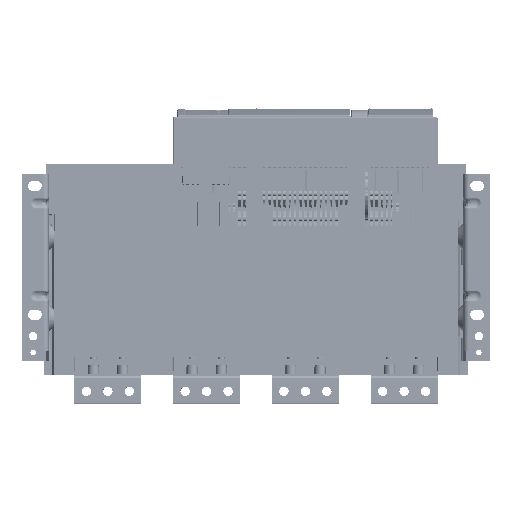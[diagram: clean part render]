
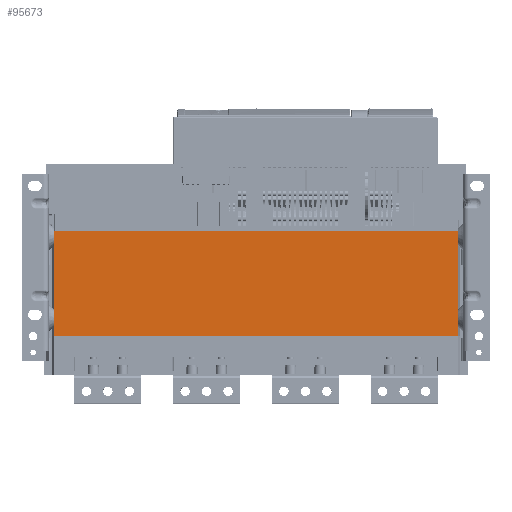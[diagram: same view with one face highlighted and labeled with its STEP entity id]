
A CAD part, top view. The second image highlights one B-rep face of the part: STEP entity #95673.
In plain terms, the highlighted planar face has unit normal (0, 0, 1).
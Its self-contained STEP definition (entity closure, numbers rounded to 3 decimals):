
#8332=FACE_OUTER_BOUND('',#13691,.T.);
#13691=EDGE_LOOP('',(#79596,#79597,#79598,#79599));
#24837=LINE('',#201125,#34410);
#24915=LINE('',#201297,#34488);
#25166=LINE('',#201829,#34739);
#25167=LINE('',#201831,#34740);
#34410=VECTOR('',#122675,471.);
#34488=VECTOR('',#122773,471.);
#34739=VECTOR('',#123278,123.);
#34740=VECTOR('',#123281,123.);
#43829=VERTEX_POINT('',#201122);
#43830=VERTEX_POINT('',#201124);
#43913=VERTEX_POINT('',#201294);
#43914=VERTEX_POINT('',#201296);
#56044=EDGE_CURVE('',#43829,#43830,#24837,.T.);
#56130=EDGE_CURVE('',#43914,#43913,#24915,.T.);
#56393=EDGE_CURVE('',#43913,#43830,#25166,.T.);
#56394=EDGE_CURVE('',#43914,#43829,#25167,.T.);
#79596=ORIENTED_EDGE('',*,*,#56130,.T.);
#79597=ORIENTED_EDGE('',*,*,#56393,.T.);
#79598=ORIENTED_EDGE('',*,*,#56044,.F.);
#79599=ORIENTED_EDGE('',*,*,#56394,.F.);
#90526=PLANE('',#103237);
#95673=ADVANCED_FACE('',(#8332),#90526,.T.);
#103237=AXIS2_PLACEMENT_3D('',#201830,#123279,#123280);
#122675=DIRECTION('',(1.,0.,0.));
#122773=DIRECTION('',(1.,0.,0.));
#123278=DIRECTION('',(0.,1.,0.));
#123279=DIRECTION('center_axis',(0.,0.,1.));
#123280=DIRECTION('ref_axis',(1.,0.,0.));
#123281=DIRECTION('',(0.,1.,0.));
#201122=CARTESIAN_POINT('',(-293.,123.,150.));
#201124=CARTESIAN_POINT('',(178.,123.,150.));
#201125=CARTESIAN_POINT('',(-293.,123.,150.));
#201294=CARTESIAN_POINT('',(178.,0.,150.));
#201296=CARTESIAN_POINT('',(-293.,0.,150.));
#201297=CARTESIAN_POINT('',(-293.,0.,150.));
#201829=CARTESIAN_POINT('',(178.,0.,150.));
#201830=CARTESIAN_POINT('Origin',(-293.,0.,150.));
#201831=CARTESIAN_POINT('',(-293.,0.,150.));
